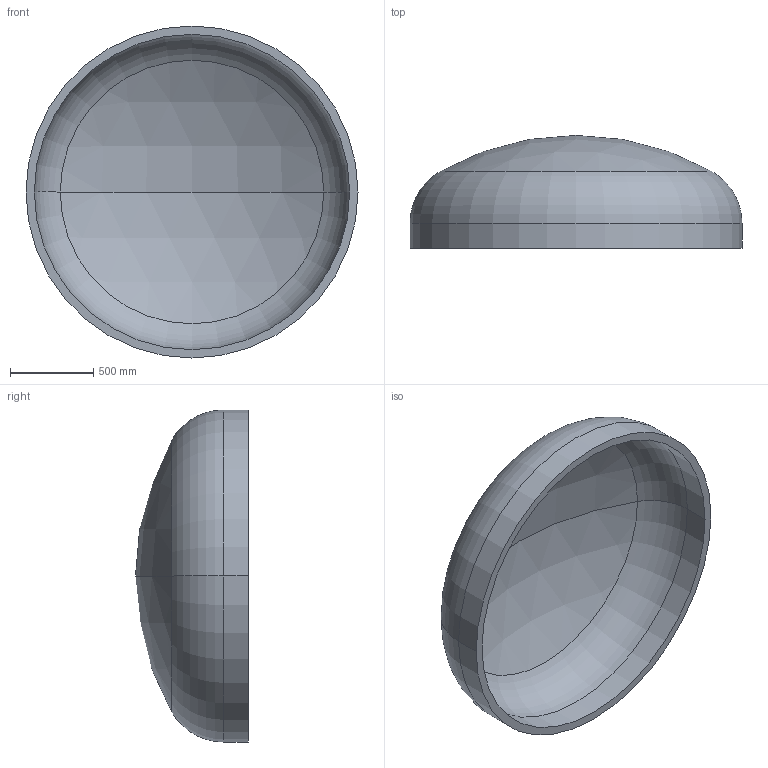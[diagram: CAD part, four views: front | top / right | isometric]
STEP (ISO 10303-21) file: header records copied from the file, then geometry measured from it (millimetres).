
FILE_DESCRIPTION (( 'STEP AP203' ), '1' );
FILE_NAME ('DIN 28013 Korbbogenform_-_Boden DIN 28013 - 2000 x 150 - I - s=50.step', '2016-07-01T13:56:36', ( '' ), ( '' ), 'SwSTEP 2.0', 'SolidWorks 2013', '' );
FILE_SCHEMA (( 'CONFIG_CONTROL_DESIGN' ));
Length unit declared in the file: millimetre
Products named in the file (1): DIN 28013 Korbbogenform_-_Boden DIN 28013 - 2000 x 150 - I - s=50
Bounding box: 2000 x 679.96 x 2000 mm (x, y, z)
Volume: 256753888.4 mm3; surface area: 10581693.8 mm2
Topology: 1 solids, 1 shells, 13 faces, 24 edges, 14 vertices
Faces by surface type: torus 4, cylinder 4, sphere 4, plane 1
Entity records: 407 total; most frequent: DIRECTION 72, CARTESIAN_POINT 52, ORIENTED_EDGE 48, AXIS2_PLACEMENT_3D 34, EDGE_CURVE 24, CIRCLE 20, VERTEX_POINT 14, EDGE_LOOP 14
